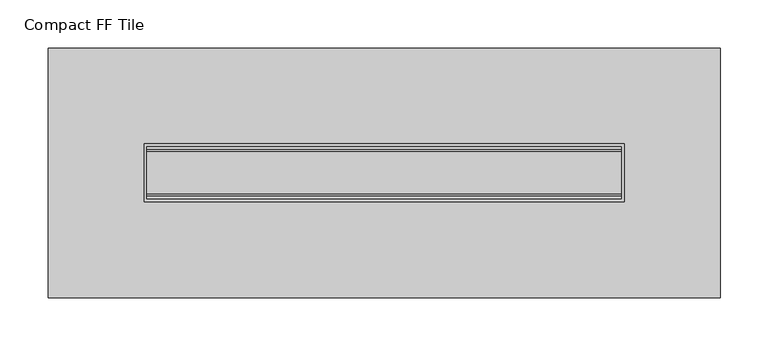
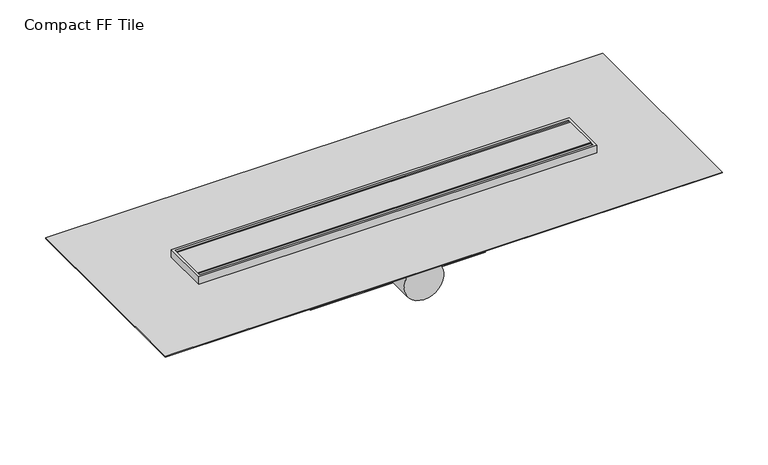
"""IFC4 building model written with IfcOpenShell, lengths in millimetres: sanitary terminal geometry, NLRS_PF_52_UN_Compact Tile_Easydrain : Compact FF Tile."""

from ifc_helpers import new_model, si_unit, point, frame, frame_2d, origin, place, context, project, spatial, polyline, circle_curve, trimmed, segment, composite_curve, outline, extrude, source, transform, mapped, element, save
from ifc_brep_helpers import plane_surface, cylinder_surface, advanced_brep


def compact_ff_tile_2c53a190(model_context):
    return source(origin(), model_context, "Body", "SolidModel", [
        extrude(outline(polyline([(247.0, 22.0), (247.0, -22.0), (-247.0, -22.0), (-247.0, 22.0), (247.0, 22.0)])), frame((0.0, 0.0, -12.0), z_axis=(0.0, 0.0, 1.0), x_axis=(1.0, 0.0, 0.0)), (0.0, 0.0, 1.0), 12.0),
        extrude(outline(polyline([(247.0, 24.0), (247.0, 22.0), (-247.0, 22.0), (-247.0, 24.0), (247.0, 24.0)])), frame((0.0, 0.0, -12.0), z_axis=(0.0, 0.0, 1.0), x_axis=(1.0, 0.0, 0.0)), (0.0, 0.0, 1.0), 12.0),
        extrude(outline(polyline([(247.0, -24.0), (-247.0, -24.0), (-247.0, -22.0), (247.0, -22.0), (247.0, -24.0)])), frame((0.0, 0.0, -12.0), z_axis=(0.0, 0.0, 1.0), x_axis=(1.0, 0.0, 0.0)), (0.0, 0.0, 1.0), 12.0),
        extrude(outline(composite_curve([segment(trimmed(circle_curve(frame_2d((-210.0, 0.0)), 20.0), [point((-230.0, 0.0))], [point((-190.0, 0.0))], False, "CARTESIAN"), True, "CONTINUOUS"), segment(trimmed(circle_curve(frame_2d((-210.0, 0.0)), 20.0), [point((-190.0, 0.0))], [point((-230.0, 0.0))], False, "CARTESIAN"), True, "CONTINUOUS")], self_intersect=False)), frame((0.0, 0.0, -93.0), z_axis=(0.0, 0.0, 1.0), x_axis=(1.0, 0.0, 0.0)), (0.0, 0.0, 1.0), 75.0),
        extrude(outline(composite_curve([segment(trimmed(circle_curve(frame_2d((210.0, 0.0)), 20.0), [point((190.0, 0.0))], [point((230.0, 0.0))], False, "CARTESIAN"), True, "CONTINUOUS"), segment(trimmed(circle_curve(frame_2d((210.0, 0.0)), 20.0), [point((230.0, 0.0))], [point((190.0, 0.0))], False, "CARTESIAN"), True, "CONTINUOUS")], self_intersect=False)), frame((0.0, 0.0, -93.0), z_axis=(0.0, 0.0, 1.0), x_axis=(1.0, 0.0, 0.0)), (0.0, 0.0, 1.0), 75.0),
        extrude(outline(polyline([(350.0, 130.0), (350.0, -130.0), (-350.0, -130.0), (-350.0, 130.0), (350.0, 130.0)]), holes=[polyline([(250.0, 30.0), (-250.0, 30.0), (-250.0, -30.0), (250.0, -30.0), (250.0, 30.0)])]), frame((0.0, 0.0, -11.0), z_axis=(0.0, 0.0, 1.0), x_axis=(1.0, 0.0, 0.0)), (0.0, 0.0, 1.0), 1.0),
        advanced_brep(
        [(-250.0, -30.0, -28.0), (-110.0, -30.0, -30.0), (-110.0, -30.0, -93.0), (110.0, -30.0, -93.0), (110.0, -30.0, -30.0), (250.0, -30.0, -28.0), (250.0, -30.0, 0.0), (-250.0, -30.0, 0.0), (0.0, -30.0, -33.0), (0.0, -30.0, -83.0), (-250.0, 30.0, -28.0), (-250.0, 30.0, 0.0), (250.0, 30.0, 0.0), (250.0, 30.0, -28.0), (110.0, 30.0, -30.0), (110.0, 30.0, -93.0), (-110.0, 30.0, -93.0), (-110.0, 30.0, -30.0), (-247.0, 27.0, 0.0), (247.0, 27.0, 0.0), (247.0, -27.0, 0.0), (-247.0, -27.0, 0.0), (0.0, -86.9792871, -33.0), (0.0, -86.9792871, -83.0), (247.0, 27.0, -12.0), (-247.0, 27.0, -12.0), (-247.0, -27.0, -12.0), (247.0, -27.0, -12.0)],
        [
            (0, 1),
            (1, 2),
            (2, 3),
            (3, 4),
            (4, 5),
            (5, 6),
            (6, 7),
            (7, 0),
            (8, 9, circle_curve(frame((0.0, -30.0, -58.0), z_axis=(0.0, 1.0, 0.0), x_axis=(0.0, 0.0, -1.0)), 25.0)),
            (9, 8, circle_curve(frame((0.0, -30.0, -58.0), z_axis=(0.0, 1.0, 0.0), x_axis=(0.0, 0.0, -1.0)), 25.0)),
            (10, 11),
            (11, 12),
            (12, 13),
            (13, 14),
            (14, 15),
            (15, 16),
            (16, 17),
            (17, 10),
            (0, 10),
            (17, 1),
            (5, 13),
            (12, 6),
            (11, 7),
            (18, 19),
            (19, 20),
            (20, 21),
            (21, 18),
            (16, 2),
            (15, 3),
            (14, 4),
            (22, 23, circle_curve(frame((0.0, -86.9792871, -58.0), z_axis=(0.0, -1.0, 0.0), x_axis=(0.0, 0.0, -1.0)), 25.0)),
            (23, 22, circle_curve(frame((0.0, -86.9792871, -58.0), z_axis=(0.0, -1.0, 0.0), x_axis=(0.0, 0.0, -1.0)), 25.0)),
            (23, 9),
            (8, 22),
            (24, 25),
            (25, 26),
            (26, 27),
            (27, 24),
            (24, 19),
            (18, 25),
            (21, 26),
            (20, 27),
        ],
        [
            plane_surface(frame((-250.0, -30.0, -28.0), z_axis=(0.0, -1.0, 0.0), x_axis=(0.99989797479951, 0.0, -0.014284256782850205))),
            plane_surface(frame((-250.0, 30.0, -28.0), z_axis=(0.0, 1.0, 0.0), x_axis=(-0.99989797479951, 0.0, 0.014284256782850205))),
            plane_surface(frame((-250.0, -30.0, -28.0), z_axis=(-0.014284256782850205, 0.0, -0.99989797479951), x_axis=(0.0, 1.0, 0.0))),
            plane_surface(frame((250.0, -30.0, -28.0), z_axis=(1.0, 0.0, 0.0), x_axis=(0.0, 1.0, 0.0))),
            plane_surface(frame((250.0, -30.0, 0.0), z_axis=(0.0, 0.0, 1.0), x_axis=(0.0, 1.0, 0.0))),
            plane_surface(frame((-250.0, -30.0, 0.0), z_axis=(-1.0, 0.0, 0.0), x_axis=(0.0, 1.0, 0.0))),
            plane_surface(frame((-110.0, -30.0, -30.0), z_axis=(-1.0, 0.0, 0.0), x_axis=(0.0, 1.0, 0.0))),
            plane_surface(frame((-110.0, -30.0, -93.0), z_axis=(0.0, 0.0, -1.0), x_axis=(0.0, 1.0, 0.0))),
            plane_surface(frame((110.0, -30.0, -93.0), z_axis=(1.0, 0.0, 0.0), x_axis=(0.0, 1.0, 0.0))),
            plane_surface(frame((110.0, -30.0, -30.0), z_axis=(0.014284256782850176, 0.0, -0.99989797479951), x_axis=(0.0, 1.0, 0.0))),
            plane_surface(frame((0.0, -86.9792871, -58.0), z_axis=(0.0, -1.0, 0.0), x_axis=(1.0, 0.0, 0.0))),
            cylinder_surface(frame((0.0, 0.0, -58.0), z_axis=(0.0, 1.0, 0.0), x_axis=(0.0, 0.0, -1.0)), 25.0),
            plane_surface(frame((-247.0, 27.0, -12.0), z_axis=(0.0, 0.0, 1.0), x_axis=(1.0, 0.0, 0.0))),
            plane_surface(frame((247.0, 27.0, 10.0), z_axis=(0.0, -1.0, 0.0), x_axis=(0.0, 0.0, -1.0))),
            plane_surface(frame((-247.0, 27.0, 10.0), z_axis=(1.0, 0.0, 0.0), x_axis=(0.0, 0.0, -1.0))),
            plane_surface(frame((-247.0, -27.0, 10.0), z_axis=(0.0, 1.0, 0.0), x_axis=(0.0, 0.0, -1.0))),
            plane_surface(frame((247.0, -27.0, 10.0), z_axis=(-1.0, 0.0, 0.0), x_axis=(0.0, 0.0, -1.0))),
        ],
        [
            (0, [[1, 2, 3, 4, 5, 6, 7, 8], [9, 10]]),
            (1, [[11, 12, 13, 14, 15, 16, 17, 18]]),
            (2, [[-1, 19, -18, 20]]),
            (3, [[-6, 21, -13, 22]]),
            (4, [[-7, -22, -12, 23], [24, 25, 26, 27]]),
            (5, [[-8, -23, -11, -19]]),
            (6, [[-2, -20, -17, 28]]),
            (7, [[-3, -28, -16, 29]]),
            (8, [[-4, -29, -15, 30]]),
            (9, [[-5, -30, -14, -21]]),
            (10, [[31, 32]]),
            (11, [[-32, 33, -9, 34]]),
            (11, [[-31, -34, -10, -33]]),
            (12, [[35, 36, 37, 38]]),
            (13, [[-35, 39, -24, 40]]),
            (14, [[-36, -40, -27, 41]]),
            (15, [[-37, -41, -26, 42]]),
            (16, [[-38, -42, -25, -39]]),
        ],
    ),
    ])


if __name__ == "__main__":
    model = new_model("IFC4")
    model_context = context("Model", 3, world=origin())
    ifc_project = project(units=[si_unit("LENGTHUNIT", "METRE", prefix="MILLI")], contexts=[model_context])
    site = spatial("IfcSite", under=ifc_project)
    building = spatial("IfcBuilding", under=site)
    placement = place(None, origin())
    compact_ff_tile_shape = compact_ff_tile_2c53a190(model_context)
    element("IfcSanitaryTerminal", 1, ObjectType="NLRS_PF_52_UN_Compact Tile_Easydrain : Compact FF Tile", at=placement, inside=building, context=model_context, shape_type="MappedRepresentation", body=[
        mapped(compact_ff_tile_shape, transform((0.0, 0.0, 0.0), x_axis=(1.0, 0.0, 0.0), y_axis=(0.0, 1.0, 0.0), z_axis=(0.0, 0.0, 1.0))),
    ])
    save(model, "model.ifc")
